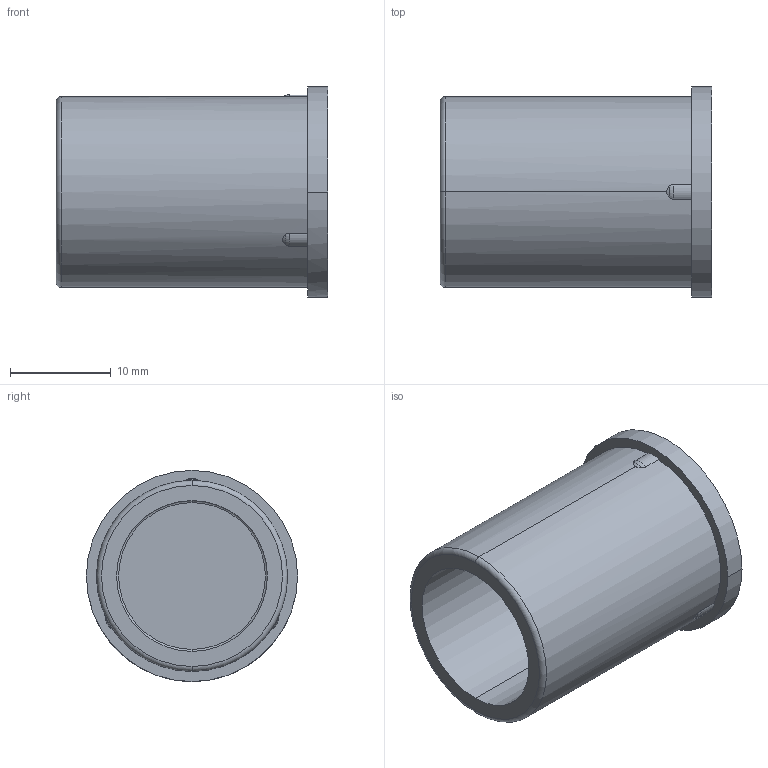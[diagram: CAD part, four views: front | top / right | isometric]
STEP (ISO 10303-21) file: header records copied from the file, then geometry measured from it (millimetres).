
FILE_DESCRIPTION(('Creo Elements/Direct Modeling STEP Export'),'2;1');
FILE_NAME('H20-0032-CL901-00_BB-190S.stp','2021-09-07T13:10:36',(''),(''),'Creo Elements/Direct Modeling STEP processor for AP214 (Solid Model)','Creo Elements/Direct Modeling 20.3B 05-Dec-2020 (C) Parametric Technology GmbH','');
FILE_SCHEMA(('AUTOMOTIVE_DESIGN { 1 0 10303 214 1 1 1 1 }'));
Length unit declared in the file: millimetre
Products named in the file (2): BB-190S
Assembly tree (1 placements, depth 2):
  BB-190S
    BB-190S
Bounding box: 27 x 21 x 21 mm (x, y, z)
Volume: 3273.3 mm3; surface area: 3501.7 mm2
Topology: 1 solids, 1 shells, 26 faces, 113 edges, 94 vertices
Faces by surface type: cylinder 9, plane 7, torus 7, cone 3
Entity records: 1351 total; most frequent: CARTESIAN_POINT 366, ORIENTED_EDGE 226, DIRECTION 165, EDGE_CURVE 113, VERTEX_POINT 94, VECTOR 71, LINE 71, AXIS2_PLACEMENT_3D 47
